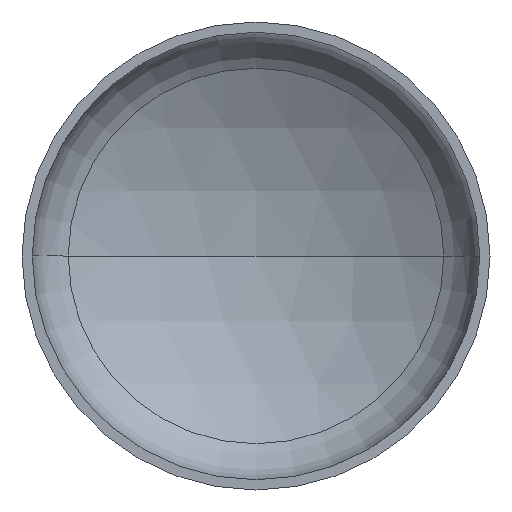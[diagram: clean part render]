
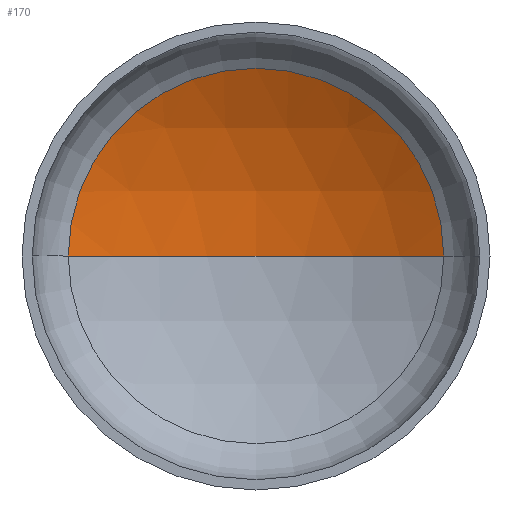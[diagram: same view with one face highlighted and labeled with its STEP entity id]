
A CAD part, front view. The second image highlights one B-rep face of the part: STEP entity #170.
In plain terms, the highlighted spherical face has radius 1760 mm.
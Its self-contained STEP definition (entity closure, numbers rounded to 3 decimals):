
#1 = AXIS2_PLACEMENT_3D ( 'NONE', #180, #357, #202 ) ;
#5 = CIRCLE ( 'NONE', #44, 882.479 ) ;
#9 = EDGE_LOOP ( 'NONE', ( #116, #93, #223 ) ) ;
#28 = VERTEX_POINT ( 'NONE', #273 ) ;
#39 = VERTEX_POINT ( 'NONE', #258 ) ;
#44 = AXIS2_PLACEMENT_3D ( 'NONE', #168, #247, #405 ) ;
#75 = VERTEX_POINT ( 'NONE', #237 ) ;
#93 = ORIENTED_EDGE ( 'NONE', *, *, #385, .T. ) ;
#100 = DIRECTION ( 'NONE',  ( 0., 0., -1. ) ) ;
#114 = AXIS2_PLACEMENT_3D ( 'NONE', #192, #284, #347 ) ;
#116 = ORIENTED_EDGE ( 'NONE', *, *, #382, .F. ) ;
#168 = CARTESIAN_POINT ( 'NONE',  ( 0., 444.172, 0. ) ) ;
#170 = ADVANCED_FACE ( 'NONE', ( #201 ), #259, .F. ) ;
#180 = CARTESIAN_POINT ( 'NONE',  ( 0., -1078.599, 0. ) ) ;
#192 = CARTESIAN_POINT ( 'NONE',  ( 0., -1078.599, 0. ) ) ;
#201 = FACE_OUTER_BOUND ( 'NONE', #9, .T. ) ;
#202 = DIRECTION ( 'NONE',  ( 1., 0., 0. ) ) ;
#222 = DIRECTION ( 'NONE',  ( -1., 0., 0. ) ) ;
#223 = ORIENTED_EDGE ( 'NONE', *, *, #346, .T. ) ;
#237 = CARTESIAN_POINT ( 'NONE',  ( 0., 681.401, 0. ) ) ;
#247 = DIRECTION ( 'NONE',  ( 0., -1., 0. ) ) ;
#249 = AXIS2_PLACEMENT_3D ( 'NONE', #274, #100, #222 ) ;
#258 = CARTESIAN_POINT ( 'NONE',  ( -882.479, 444.172, 0. ) ) ;
#259 = SPHERICAL_SURFACE ( 'NONE', #114, 1760. ) ;
#273 = CARTESIAN_POINT ( 'NONE',  ( 882.479, 444.172, 0. ) ) ;
#274 = CARTESIAN_POINT ( 'NONE',  ( 0., -1078.599, 0. ) ) ;
#284 = DIRECTION ( 'NONE',  ( 0., 0., -1. ) ) ;
#286 = CIRCLE ( 'NONE', #1, 1760. ) ;
#296 = CIRCLE ( 'NONE', #249, 1760. ) ;
#346 = EDGE_CURVE ( 'NONE', #28, #39, #5, .T. ) ;
#347 = DIRECTION ( 'NONE',  ( -1., 0., 0. ) ) ;
#357 = DIRECTION ( 'NONE',  ( 0., 0., 1. ) ) ;
#382 = EDGE_CURVE ( 'NONE', #75, #39, #286, .T. ) ;
#385 = EDGE_CURVE ( 'NONE', #75, #28, #296, .T. ) ;
#405 = DIRECTION ( 'NONE',  ( 1., 0., 0. ) ) ;
